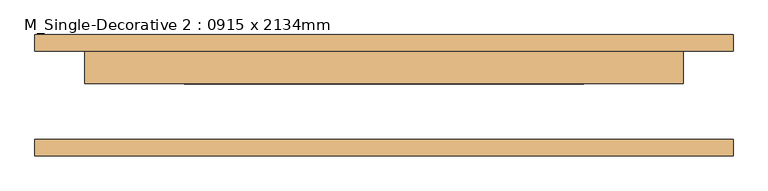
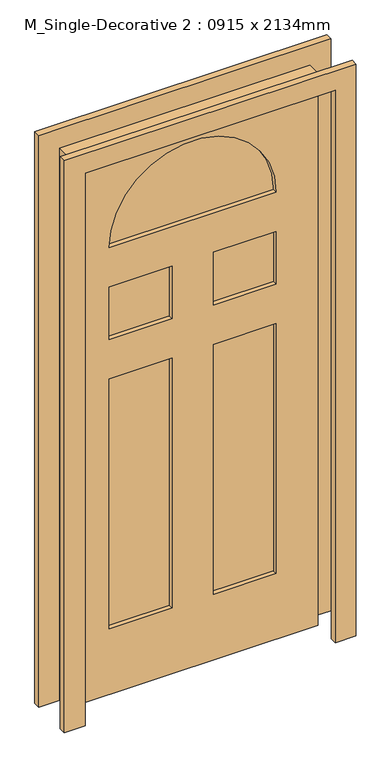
"""IFC4 building model written with IfcOpenShell, lengths in millimetres: door geometry, M_Single-Decorative 2 : 0915 x 2134mm."""

from ifc_helpers import new_model, si_unit, point, frame, frame_2d, origin, place, context, project, spatial, polyline, circle_curve, trimmed, segment, composite_curve, outline, extrude, source, transform, mapped, element, save


def m_single_decorative_2_0915_x_2134mm_cc9a65e4(model_context):
    return source(origin(), model_context, "Body", "SweptSolid", [
        extrude(outline(polyline([(2134.0, 457.5), (2134.0, -457.5), (0.0, -457.5), (0.0, 457.5), (2134.0, 457.5)]), holes=[polyline([(1219.3, -76.2), (254.0, -76.2), (254.0, -305.1), (1219.3, -305.1), (1219.3, -76.2)]), polyline([(1219.3, 305.1), (254.0, 305.1), (254.0, 76.2), (1219.3, 76.2), (1219.3, 305.1)]), polyline([(1371.7, -76.2), (1371.7, -305.1), (1574.9, -305.1), (1574.9, -76.2), (1371.7, -76.2)]), polyline([(1574.9, 76.2), (1574.9, 305.1), (1371.7, 305.1), (1371.7, 76.2), (1574.9, 76.2)]), composite_curve([segment(polyline([(1727.3, 305.1), (1727.3, -305.1)]), True, "CONTINUOUS"), segment(trimmed(circle_curve(frame_2d((1727.3, 0.0)), 305.1), [point((1727.3, -305.1))], [point((1727.3, 305.1))], True, "CARTESIAN"), True, "CONTINUOUS")], self_intersect=False)]), frame((0.0, 17.75, 0.0), z_axis=(0.0, 1.0, 0.0), x_axis=(0.0, 0.0, 1.0)), (0.0, 0.0, 1.0), 50.0),
        extrude(outline(polyline([(0.0, 457.5), (0.0, 533.5), (2209.0, 533.5), (2209.0, -533.5), (0.0, -533.5), (0.0, -457.5), (2134.0, -457.5), (2134.0, 457.5), (0.0, 457.5)])), frame((0.0, -92.75, 0.0), z_axis=(0.0, 1.0, 0.0), x_axis=(0.0, 0.0, 1.0)), (0.0, 0.0, 1.0), 25.0),
        extrude(outline(polyline([(2209.0, -533.5), (0.0, -533.5), (0.0, -457.5), (2134.0, -457.5), (2134.0, 457.5), (0.0, 457.5), (0.0, 533.5), (2209.0, 533.5), (2209.0, -533.5)])), frame((0.0, 67.75, 0.0), z_axis=(0.0, 1.0, 0.0), x_axis=(0.0, 0.0, 1.0)), (0.0, 0.0, 1.0), 25.0),
        extrude(outline(composite_curve([segment(trimmed(circle_curve(frame_2d((1727.3, 0.0)), 305.1), [point((1727.3, 305.1))], [point((1727.3, -305.1))], False, "CARTESIAN"), True, "CONTINUOUS"), segment(polyline([(1727.3, -305.1), (1727.3, 305.1)]), True, "CONTINUOUS")], self_intersect=False)), frame((0.0, 34.4166667, 0.0), z_axis=(0.0, 1.0, 0.0), x_axis=(0.0, 0.0, 1.0)), (0.0, 0.0, 1.0), 16.6666667),
        extrude(outline(polyline([(-305.1, 51.0833333), (-76.2, 51.0833333), (-76.2, 34.4166667), (-305.1, 34.4166667), (-305.1, 51.0833333)])), frame((0.0, 0.0, 254.0), z_axis=(0.0, 0.0, 1.0), x_axis=(1.0, 0.0, 0.0)), (0.0, 0.0, 1.0), 965.3),
        extrude(outline(polyline([(76.2, 51.0833333), (305.1, 51.0833333), (305.1, 34.4166667), (76.2, 34.4166667), (76.2, 51.0833333)])), frame((0.0, 0.0, 254.0), z_axis=(0.0, 0.0, 1.0), x_axis=(1.0, 0.0, 0.0)), (0.0, 0.0, 1.0), 965.3),
        extrude(outline(polyline([(76.2, 51.0833333), (305.1, 51.0833333), (305.1, 34.4166667), (76.2, 34.4166667), (76.2, 51.0833333)])), frame((0.0, 0.0, 1371.7), z_axis=(0.0, 0.0, 1.0), x_axis=(1.0, 0.0, 0.0)), (0.0, 0.0, 1.0), 203.2),
        extrude(outline(polyline([(-305.1, 51.0833333), (-76.2, 51.0833333), (-76.2, 34.4166667), (-305.1, 34.4166667), (-305.1, 51.0833333)])), frame((0.0, 0.0, 1371.7), z_axis=(0.0, 0.0, 1.0), x_axis=(1.0, 0.0, 0.0)), (0.0, 0.0, 1.0), 203.2),
    ])


if __name__ == "__main__":
    model = new_model("IFC4")
    model_context = context("Model", 3, world=origin())
    ifc_project = project(units=[si_unit("LENGTHUNIT", "METRE", prefix="MILLI")], contexts=[model_context])
    site = spatial("IfcSite", under=ifc_project)
    building = spatial("IfcBuilding", under=site)
    placement = place(None, origin())
    m_single_decorative_2_0915_x_2134mm_shape = m_single_decorative_2_0915_x_2134mm_cc9a65e4(model_context)
    element("IfcDoor", 1, ObjectType="M_Single-Decorative 2 : 0915 x 2134mm", at=placement, inside=building, context=model_context, shape_type="MappedRepresentation", body=[
        mapped(m_single_decorative_2_0915_x_2134mm_shape, transform((0.0, 0.0, 0.0), x_axis=(1.0, 0.0, 0.0), y_axis=(0.0, 1.0, 0.0), z_axis=(0.0, 0.0, 1.0))),
    ])
    save(model, "model.ifc")
